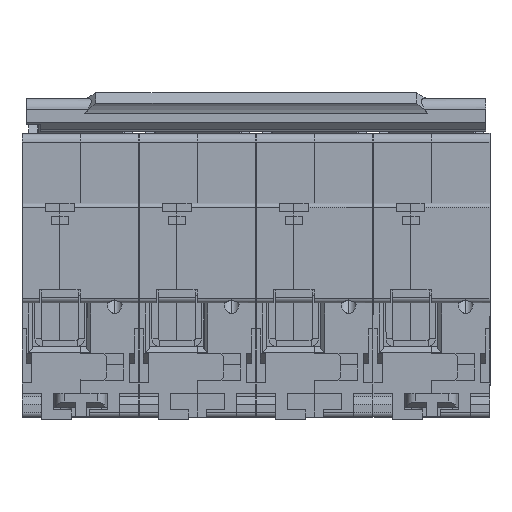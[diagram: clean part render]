
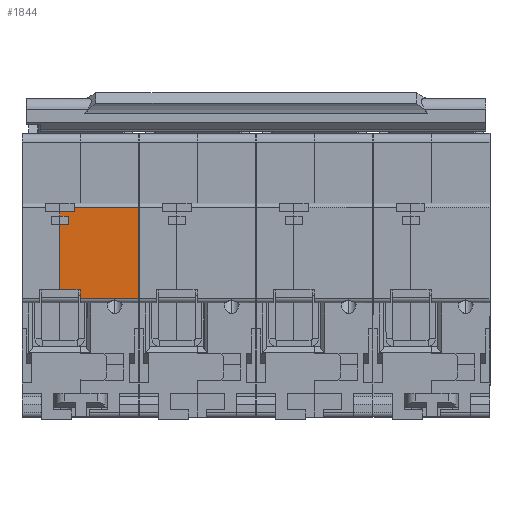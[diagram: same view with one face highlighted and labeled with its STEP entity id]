
A CAD part, front view. The second image highlights one B-rep face of the part: STEP entity #1844.
In plain terms, the highlighted planar face has unit normal (0, -1, 0) as drawn and (-1, 0, 0) by its records, which use the part's own axes.
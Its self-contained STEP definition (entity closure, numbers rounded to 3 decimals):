
#78 = DIRECTION ( 'NONE',  ( 0., 0., -1. ) ) ;
#429 = CARTESIAN_POINT ( 'NONE',  ( -17.65, -21.1, -4.8 ) ) ;
#514 = LINE ( 'NONE', #14592, #21982 ) ;
#608 = LINE ( 'NONE', #2774, #12017 ) ;
#1374 = CARTESIAN_POINT ( 'NONE',  ( -17.65, -19.1, -4.8 ) ) ;
#1488 = ORIENTED_EDGE ( 'NONE', *, *, #1987, .F. ) ;
#1646 = VECTOR ( 'NONE', #6402, 1000. ) ;
#1840 = CARTESIAN_POINT ( 'NONE',  ( -17.65, -16.1, -4.8 ) ) ;
#1844 = ADVANCED_FACE ( 'NONE', ( #8017 ), #10543, .F. ) ;
#1987 = EDGE_CURVE ( 'NONE', #19242, #19816, #514, .T. ) ;
#2002 = ORIENTED_EDGE ( 'NONE', *, *, #9181, .F. ) ;
#2774 = CARTESIAN_POINT ( 'NONE',  ( -17.65, -36.1, -0.1 ) ) ;
#3437 = CARTESIAN_POINT ( 'NONE',  ( -17.65, -39.1, 13.5 ) ) ;
#3569 = VECTOR ( 'NONE', #6184, 1000. ) ;
#3608 = CARTESIAN_POINT ( 'NONE',  ( -17.65, -19.1, -2.8 ) ) ;
#3689 = CARTESIAN_POINT ( 'NONE',  ( -17.65, -18.1, -4.8 ) ) ;
#3753 = DIRECTION ( 'NONE',  ( 0., 1., 0. ) ) ;
#3766 = ORIENTED_EDGE ( 'NONE', *, *, #16015, .F. ) ;
#4207 = EDGE_CURVE ( 'NONE', #8296, #14435, #13493, .T. ) ;
#4379 = VERTEX_POINT ( 'NONE', #21828 ) ;
#4548 = DIRECTION ( 'NONE',  ( 0., 1., 0. ) ) ;
#4614 = LINE ( 'NONE', #22596, #8755 ) ;
#4714 = LINE ( 'NONE', #3437, #8846 ) ;
#4860 = LINE ( 'NONE', #15860, #20458 ) ;
#4999 = ORIENTED_EDGE ( 'NONE', *, *, #20147, .F. ) ;
#5505 = EDGE_LOOP ( 'NONE', ( #4999, #6409, #3766, #18339, #9066, #19909, #5919, #14004, #2002, #19701, #1488, #5786 ) ) ;
#5786 = ORIENTED_EDGE ( 'NONE', *, *, #17930, .F. ) ;
#5919 = ORIENTED_EDGE ( 'NONE', *, *, #6753, .F. ) ;
#6015 = AXIS2_PLACEMENT_3D ( 'NONE', #6965, #14369, #19458 ) ;
#6184 = DIRECTION ( 'NONE',  ( 0., 0., -1. ) ) ;
#6402 = DIRECTION ( 'NONE',  ( 0., 1., 0. ) ) ;
#6409 = ORIENTED_EDGE ( 'NONE', *, *, #11985, .T. ) ;
#6544 = VECTOR ( 'NONE', #22812, 1000. ) ;
#6753 = EDGE_CURVE ( 'NONE', #15593, #8296, #15651, .T. ) ;
#6831 = DIRECTION ( 'NONE',  ( 0., -1., 0. ) ) ;
#6965 = CARTESIAN_POINT ( 'NONE',  ( -17.65, -39.1, 13.5 ) ) ;
#7355 = CARTESIAN_POINT ( 'NONE',  ( -17.65, -19.1, -2.8 ) ) ;
#7709 = LINE ( 'NONE', #20770, #1646 ) ;
#8017 = FACE_OUTER_BOUND ( 'NONE', #5505, .T. ) ;
#8296 = VERTEX_POINT ( 'NONE', #22459 ) ;
#8755 = VECTOR ( 'NONE', #14933, 1000. ) ;
#8846 = VECTOR ( 'NONE', #6831, 1000. ) ;
#9066 = ORIENTED_EDGE ( 'NONE', *, *, #14771, .F. ) ;
#9143 = DIRECTION ( 'NONE',  ( 0., 1., 0. ) ) ;
#9181 = EDGE_CURVE ( 'NONE', #21192, #22788, #7709, .T. ) ;
#10378 = CARTESIAN_POINT ( 'NONE',  ( -17.65, -36.1, -4.8 ) ) ;
#10401 = CARTESIAN_POINT ( 'NONE',  ( -17.65, -36.1, -4.8 ) ) ;
#10543 = PLANE ( 'NONE',  #6015 ) ;
#10575 = CARTESIAN_POINT ( 'NONE',  ( -17.65, -18.1, -1.5 ) ) ;
#10765 = CARTESIAN_POINT ( 'NONE',  ( -17.65, -38.1, 13.5 ) ) ;
#10999 = EDGE_CURVE ( 'NONE', #21345, #17800, #4860, .T. ) ;
#11493 = CARTESIAN_POINT ( 'NONE',  ( -17.65, -21.1, -2.8 ) ) ;
#11985 = EDGE_CURVE ( 'NONE', #20464, #14972, #4614, .T. ) ;
#12017 = VECTOR ( 'NONE', #4548, 1000. ) ;
#12377 = VECTOR ( 'NONE', #21534, 1000. ) ;
#13493 = LINE ( 'NONE', #3689, #12377 ) ;
#13692 = LINE ( 'NONE', #10575, #15646 ) ;
#13886 = LINE ( 'NONE', #11493, #3569 ) ;
#14004 = ORIENTED_EDGE ( 'NONE', *, *, #20451, .F. ) ;
#14369 = DIRECTION ( 'NONE',  ( 1., 0., 0. ) ) ;
#14435 = VERTEX_POINT ( 'NONE', #22584 ) ;
#14533 = CARTESIAN_POINT ( 'NONE',  ( -17.65, -38.1, -0.1 ) ) ;
#14592 = CARTESIAN_POINT ( 'NONE',  ( -17.65, -16.1, -4.8 ) ) ;
#14771 = EDGE_CURVE ( 'NONE', #14435, #17800, #13692, .T. ) ;
#14933 = DIRECTION ( 'NONE',  ( 0., 0., 1. ) ) ;
#14972 = VERTEX_POINT ( 'NONE', #10765 ) ;
#15073 = VECTOR ( 'NONE', #3753, 1000. ) ;
#15593 = VERTEX_POINT ( 'NONE', #1374 ) ;
#15646 = VECTOR ( 'NONE', #9143, 1000. ) ;
#15651 = LINE ( 'NONE', #1840, #15073 ) ;
#15860 = CARTESIAN_POINT ( 'NONE',  ( -17.65, -17.1, 13.5 ) ) ;
#16015 = EDGE_CURVE ( 'NONE', #21345, #14972, #4714, .T. ) ;
#16456 = EDGE_CURVE ( 'NONE', #21192, #19816, #13886, .T. ) ;
#16542 = DIRECTION ( 'NONE',  ( 0., 1., 0. ) ) ;
#17025 = LINE ( 'NONE', #7355, #21233 ) ;
#17800 = VERTEX_POINT ( 'NONE', #18656 ) ;
#17930 = EDGE_CURVE ( 'NONE', #4379, #19242, #19949, .T. ) ;
#18339 = ORIENTED_EDGE ( 'NONE', *, *, #10999, .T. ) ;
#18656 = CARTESIAN_POINT ( 'NONE',  ( -17.65, -17.1, -1.5 ) ) ;
#19242 = VERTEX_POINT ( 'NONE', #10401 ) ;
#19458 = DIRECTION ( 'NONE',  ( 0., 0., -1. ) ) ;
#19701 = ORIENTED_EDGE ( 'NONE', *, *, #16456, .T. ) ;
#19816 = VERTEX_POINT ( 'NONE', #429 ) ;
#19909 = ORIENTED_EDGE ( 'NONE', *, *, #4207, .F. ) ;
#19949 = LINE ( 'NONE', #10378, #6544 ) ;
#20147 = EDGE_CURVE ( 'NONE', #20464, #4379, #608, .T. ) ;
#20451 = EDGE_CURVE ( 'NONE', #22788, #15593, #17025, .T. ) ;
#20458 = VECTOR ( 'NONE', #21247, 1000. ) ;
#20464 = VERTEX_POINT ( 'NONE', #14533 ) ;
#20770 = CARTESIAN_POINT ( 'NONE',  ( -17.65, -19.1, -2.8 ) ) ;
#21192 = VERTEX_POINT ( 'NONE', #21899 ) ;
#21233 = VECTOR ( 'NONE', #78, 1000. ) ;
#21247 = DIRECTION ( 'NONE',  ( 0., 0., -1. ) ) ;
#21345 = VERTEX_POINT ( 'NONE', #22367 ) ;
#21534 = DIRECTION ( 'NONE',  ( 0., 0., 1. ) ) ;
#21828 = CARTESIAN_POINT ( 'NONE',  ( -17.65, -36.1, -0.1 ) ) ;
#21899 = CARTESIAN_POINT ( 'NONE',  ( -17.65, -21.1, -2.8 ) ) ;
#21982 = VECTOR ( 'NONE', #16542, 1000. ) ;
#22367 = CARTESIAN_POINT ( 'NONE',  ( -17.65, -17.1, 13.5 ) ) ;
#22459 = CARTESIAN_POINT ( 'NONE',  ( -17.65, -18.1, -4.8 ) ) ;
#22584 = CARTESIAN_POINT ( 'NONE',  ( -17.65, -18.1, -1.5 ) ) ;
#22596 = CARTESIAN_POINT ( 'NONE',  ( -17.65, -38.1, 13.5 ) ) ;
#22788 = VERTEX_POINT ( 'NONE', #3608 ) ;
#22812 = DIRECTION ( 'NONE',  ( 0., 0., -1. ) ) ;
